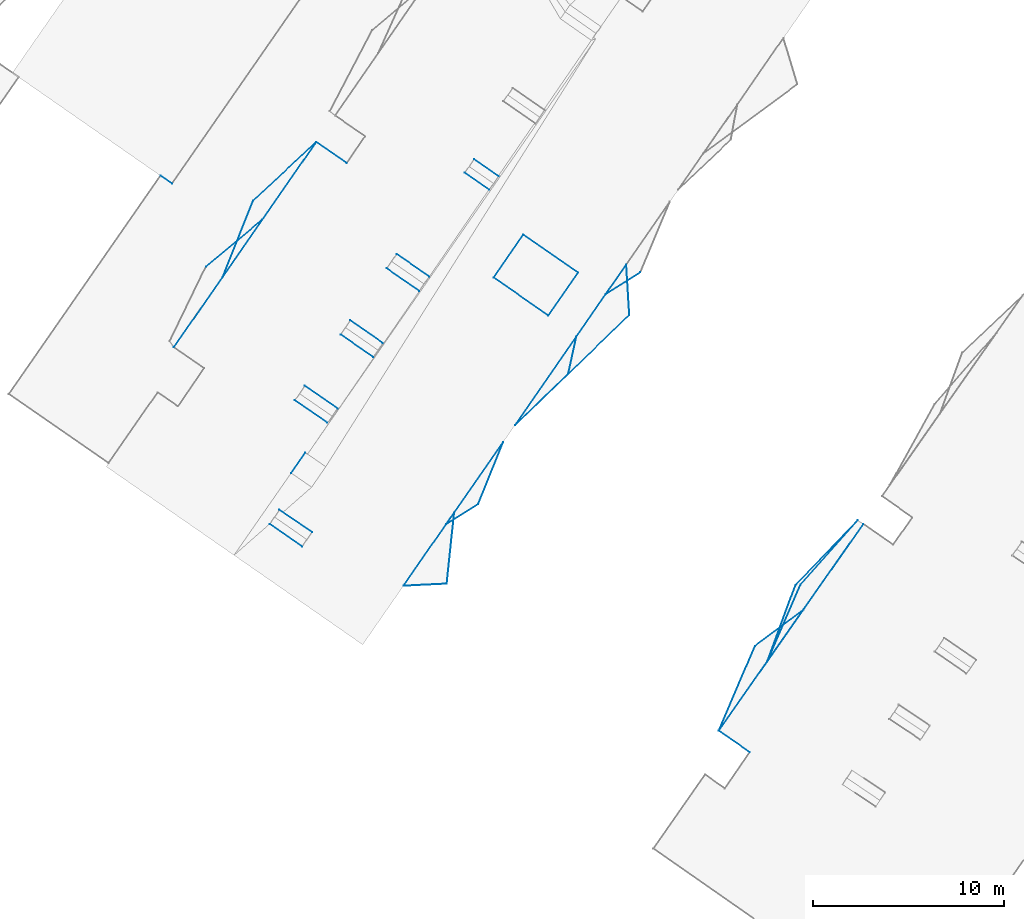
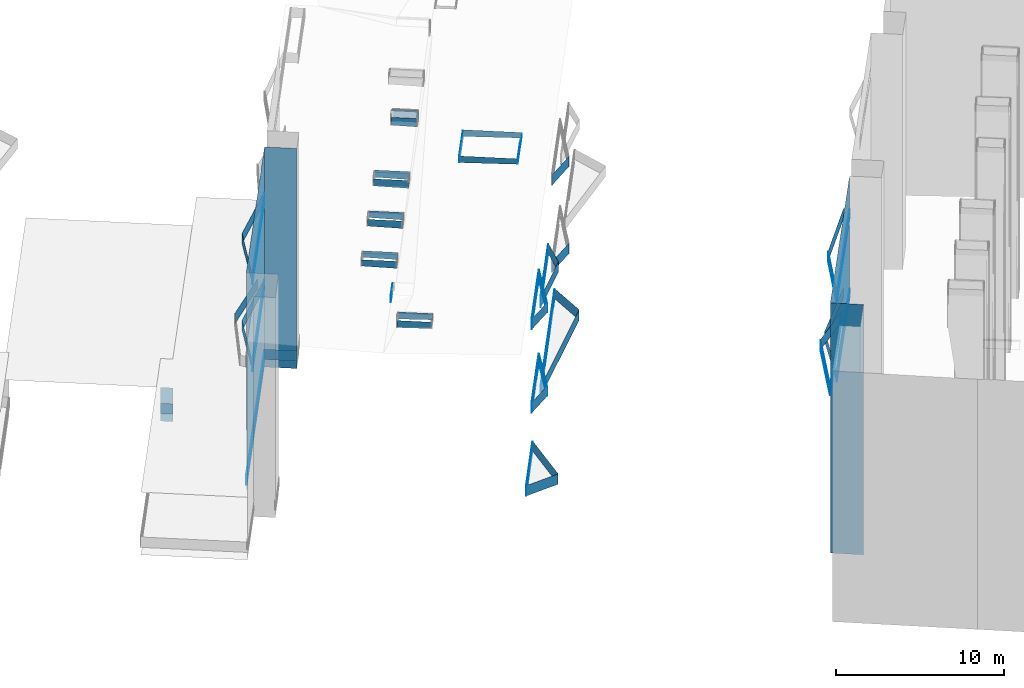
# Not in any storey, part 3 of 136: 97 walls.
"""IFC2X3 building model written with IfcOpenShell, lengths in metres."""

from ifc_helpers import new_model, entity, si_unit, converted_unit, frame, origin, place, context, subcontext, project, spatial, face_set, surface_model, element, save


model = new_model("IFC2X3")

# Units and contexts
model_context = context("Model", 3, precision=1e-05, world=origin())
body_context = subcontext(model_context, "Body", "Model", "MODEL_VIEW")
ifc_project = project(units=[converted_unit("PLANEANGLEUNIT", "DEGREE", entity("IfcRatioMeasure", 0.0174532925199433), si_unit("PLANEANGLEUNIT", "RADIAN"), dimensions=[0, 0, 0, 0, 0, 0, 0]), si_unit("AREAUNIT", "SQUARE_METRE"), si_unit("LENGTHUNIT", "METRE")], contexts=[model_context])

# Site, building
site_placement = place(None, origin())
site = spatial("IfcSite", under=ifc_project, at=site_placement, Name="_site", CompositionType="ELEMENT")
building_1_placement = place(site_placement, origin())
building_1 = spatial("IfcBuilding", under=site, at=building_1_placement, Name="_building", CompositionType="ELEMENT")

# Walls
wall_1_placement = place(building_1_placement, origin())
element("IfcWall", 1, at=wall_1_placement, inside=building_1, Name="Wall", context=body_context, shape_type="SurfaceModel", body=[
    surface_model("IfcFaceBasedSurfaceModel", [(4.31, 32.83, 47.18), (-0.12, 26.5, 47.18), (-0.12, 26.5, 47.93), (4.31, 32.83, 47.93)], [face_set([[[0, 1, 2, 3]]])]),
])
wall_2_placement = place(building_1_placement, origin())
element("IfcWall", 2, at=wall_2_placement, inside=building_1, Name="Wall", context=body_context, shape_type="SurfaceModel", body=[
    surface_model("IfcFaceBasedSurfaceModel", [(-0.12, 26.5, 47.18), (1.77, 30.93, 47.18), (1.77, 30.93, 47.93), (-0.12, 26.5, 47.93)], [face_set([[[0, 1, 2, 3]]])]),
])
wall_3_placement = place(building_1_placement, origin())
element("IfcWall", 3, at=wall_3_placement, inside=building_1, Name="Wall", context=body_context, shape_type="SurfaceModel", body=[
    surface_model("IfcFaceBasedSurfaceModel", [(2.41, 30.12, 45.09), (3.89, 34.12, 45.09), (3.89, 34.12, 45.84), (2.41, 30.12, 45.84)], [face_set([[[0, 1, 2, 3]]])]),
])
wall_4_placement = place(building_1_placement, origin())
element("IfcWall", 4, at=wall_4_placement, inside=building_1, Name="Wall", context=body_context, shape_type="SurfaceModel", body=[
    surface_model("IfcFaceBasedSurfaceModel", [(7.44, 37.311, 45.09), (2.41, 30.12, 45.09), (2.41, 30.12, 45.84), (7.44, 37.311, 45.84)], [face_set([[[0, 1, 2, 3]]])]),
])
wall_5_placement = place(building_1_placement, origin())
element("IfcWall", 5, at=wall_5_placement, inside=building_1, Name="Wall", context=body_context, shape_type="SurfaceModel", body=[
    surface_model("IfcFaceBasedSurfaceModel", [(3.89, 34.12, 45.09), (7.15, 37.51, 45.09), (7.15, 37.51, 45.84), (3.89, 34.12, 45.84)], [face_set([[[0, 1, 2, 3]]])]),
])
wall_6_placement = place(building_1_placement, origin())
element("IfcWall", 6, at=wall_6_placement, inside=building_1, Name="Wall", context=body_context, shape_type="SurfaceModel", body=[
    surface_model("IfcFaceBasedSurfaceModel", [(2.41, 30.12, 45.09), (3.89, 34.12, 45.09), (3.89, 34.12, 45.84), (2.41, 30.12, 45.84)], [face_set([[[0, 1, 2, 3]]])]),
])
wall_7_placement = place(building_1_placement, origin())
element("IfcWall", 7, at=wall_7_placement, inside=building_1, Name="Wall", context=body_context, shape_type="SurfaceModel", body=[
    surface_model("IfcFaceBasedSurfaceModel", [(7.44, 37.311, 45.09), (2.41, 30.12, 45.09), (2.41, 30.12, 45.84), (7.44, 37.311, 45.84)], [face_set([[[0, 1, 2, 3]]])]),
])
wall_8_placement = place(building_1_placement, origin())
element("IfcWall", 8, at=wall_8_placement, inside=building_1, Name="Wall", context=body_context, shape_type="SurfaceModel", body=[
    surface_model("IfcFaceBasedSurfaceModel", [(3.89, 34.12, 45.09), (7.15, 37.51, 45.09), (7.15, 37.51, 45.84), (3.89, 34.12, 45.84)], [face_set([[[0, 1, 2, 3]]])]),
])
wall_9_placement = place(building_1_placement, origin())
element("IfcWall", 9, at=wall_9_placement, inside=building_1, Name="Wall", context=body_context, shape_type="SurfaceModel", body=[
    surface_model("IfcFaceBasedSurfaceModel", [(-0.12, 26.5, 53.93), (7.44, 37.311, 53.93), (7.44, 37.311, 35.839), (-0.12, 26.5, 35.784)], [face_set([[[0, 1, 2, 3]]])]),
])
wall_10_placement = place(building_1_placement, origin())
element("IfcWall", 10, at=wall_10_placement, inside=building_1, Name="Wall", context=body_context, shape_type="SurfaceModel", body=[
    surface_model("IfcFaceBasedSurfaceModel", [(1.5, 25.37, 53.93), (-0.12, 26.5, 53.93), (-0.12, 26.5, 35.784), (1.5, 25.37, 35.775)], [face_set([[[0, 1, 2, 3]]])]),
])
wall_11_placement = place(building_1_placement, origin())
element("IfcWall", 11, at=wall_11_placement, inside=building_1, Name="Wall", context=body_context, shape_type="SurfaceModel", body=[
    surface_model("IfcFaceBasedSurfaceModel", [(4.31, 32.83, 47.18), (-0.12, 26.5, 47.18), (-0.12, 26.5, 47.93), (4.31, 32.83, 47.93)], [face_set([[[0, 1, 2, 3]]])]),
])
wall_12_placement = place(building_1_placement, origin())
element("IfcWall", 12, at=wall_12_placement, inside=building_1, Name="Wall", context=body_context, shape_type="SurfaceModel", body=[
    surface_model("IfcFaceBasedSurfaceModel", [(1.77, 30.93, 47.18), (4.31, 32.83, 47.18), (4.31, 32.83, 47.93), (1.77, 30.93, 47.93)], [face_set([[[0, 1, 2, 3]]])]),
])
wall_13_placement = place(building_1_placement, origin())
element("IfcWall", 13, at=wall_13_placement, inside=building_1, Name="Wall", context=body_context, shape_type="SurfaceModel", body=[
    surface_model("IfcFaceBasedSurfaceModel", [(-0.12, 26.5, 47.18), (1.77, 30.93, 47.18), (1.77, 30.93, 47.93), (-0.12, 26.5, 47.93)], [face_set([[[0, 1, 2, 3]]])]),
])
wall_14_placement = place(building_1_placement, origin())
element("IfcWall", 14, at=wall_14_placement, inside=building_1, Name="Wall", context=body_context, shape_type="SurfaceModel", body=[
    surface_model("IfcFaceBasedSurfaceModel", [(1.77, 30.93, 47.18), (4.31, 32.83, 47.18), (4.31, 32.83, 47.93), (1.77, 30.93, 47.93)], [face_set([[[0, 1, 2, 3]]])]),
])
wall_15_placement = place(building_1_placement, origin())
element("IfcWall", 15, at=wall_15_placement, inside=building_1, Name="Wall", context=body_context, shape_type="SurfaceModel", body=[
    surface_model("IfcFaceBasedSurfaceModel", [(2.41, 30.12, 50.84), (4.15, 34.14, 50.84), (4.15, 34.14, 51.59), (2.41, 30.12, 51.59)], [face_set([[[0, 1, 2, 3]]])]),
])
wall_16_placement = place(building_1_placement, origin())
element("IfcWall", 16, at=wall_16_placement, inside=building_1, Name="Wall", context=body_context, shape_type="SurfaceModel", body=[
    surface_model("IfcFaceBasedSurfaceModel", [(7.44, 37.311, 50.84), (2.41, 30.12, 50.84), (2.41, 30.12, 51.59), (7.44, 37.311, 51.59)], [face_set([[[0, 1, 2, 3]]])]),
])
wall_17_placement = place(building_1_placement, origin())
element("IfcWall", 17, at=wall_17_placement, inside=building_1, Name="Wall", context=body_context, shape_type="SurfaceModel", body=[
    surface_model("IfcFaceBasedSurfaceModel", [(4.15, 34.14, 50.84), (7.15, 37.51, 50.84), (7.15, 37.51, 51.59), (4.15, 34.14, 51.59)], [face_set([[[0, 1, 2, 3]]])]),
])
wall_18_placement = place(building_1_placement, origin())
element("IfcWall", 18, at=wall_18_placement, inside=building_1, Name="Wall", context=body_context, shape_type="SurfaceModel", body=[
    surface_model("IfcFaceBasedSurfaceModel", [(2.41, 30.12, 50.84), (4.15, 34.14, 50.84), (4.15, 34.14, 51.59), (2.41, 30.12, 51.59)], [face_set([[[0, 1, 2, 3]]])]),
])
wall_19_placement = place(building_1_placement, origin())
element("IfcWall", 19, at=wall_19_placement, inside=building_1, Name="Wall", context=body_context, shape_type="SurfaceModel", body=[
    surface_model("IfcFaceBasedSurfaceModel", [(7.44, 37.311, 50.84), (2.41, 30.12, 50.84), (2.41, 30.12, 51.59), (7.44, 37.311, 51.59)], [face_set([[[0, 1, 2, 3]]])]),
])
wall_20_placement = place(building_1_placement, origin())
element("IfcWall", 20, at=wall_20_placement, inside=building_1, Name="Wall", context=body_context, shape_type="SurfaceModel", body=[
    surface_model("IfcFaceBasedSurfaceModel", [(4.15, 34.14, 50.84), (7.15, 37.51, 50.84), (7.15, 37.51, 51.59), (4.15, 34.14, 51.59)], [face_set([[[0, 1, 2, 3]]])]),
])

# Building
building_2_placement = place(site_placement, origin())
building_2 = spatial("IfcBuilding", under=site, at=building_2_placement, Name="_building", CompositionType="ELEMENT")

# Walls
wall_21_placement = place(building_2_placement, origin())
element("IfcWall", 21, at=wall_21_placement, inside=building_2, Name="Wall", context=body_context, shape_type="SurfaceModel", body=[
    surface_model("IfcFaceBasedSurfaceModel", [(-4.22, 50.48, 44.39), (-6.03, 49.33, 44.39), (-6.03, 49.33, 45.14), (-4.22, 50.48, 45.14)], [face_set([[[0, 1, 2, 3]]])]),
])
wall_22_placement = place(building_2_placement, origin())
element("IfcWall", 22, at=wall_22_placement, inside=building_2, Name="Wall", context=body_context, shape_type="SurfaceModel", body=[
    surface_model("IfcFaceBasedSurfaceModel", [(-14.38, 37.3, 50.44), (-13.96, 37.91, 50.44), (-13.96, 37.91, 51.19), (-14.38, 37.3, 51.19)], [face_set([[[0, 1, 2, 3]]])]),
])
wall_23_placement = place(building_2_placement, origin())
element("IfcWall", 23, at=wall_23_placement, inside=building_2, Name="Wall", context=body_context, shape_type="SurfaceModel", body=[
    surface_model("IfcFaceBasedSurfaceModel", [(-12.71, 38.351, 50.44), (-14.38, 37.3, 50.44), (-14.38, 37.3, 51.19), (-12.71, 38.351, 51.19)], [face_set([[[0, 1, 2, 3]]])]),
])
wall_24_placement = place(building_2_placement, origin())
element("IfcWall", 24, at=wall_24_placement, inside=building_2, Name="Wall", context=body_context, shape_type="SurfaceModel", body=[
    surface_model("IfcFaceBasedSurfaceModel", [(-11.4, 41.59, 50.44), (-12.71, 38.351, 50.44), (-12.71, 38.351, 51.19), (-11.4, 41.59, 51.19)], [face_set([[[0, 1, 2, 3]]])]),
])
wall_25_placement = place(building_2_placement, origin())
element("IfcWall", 25, at=wall_25_placement, inside=building_2, Name="Wall", context=body_context, shape_type="SurfaceModel", body=[
    surface_model("IfcFaceBasedSurfaceModel", [(-14.38, 37.3, 50.44), (-13.96, 37.91, 50.44), (-13.96, 37.91, 51.19), (-14.38, 37.3, 51.19)], [face_set([[[0, 1, 2, 3]]])]),
])
wall_26_placement = place(building_2_placement, origin())
element("IfcWall", 26, at=wall_26_placement, inside=building_2, Name="Wall", context=body_context, shape_type="SurfaceModel", body=[
    surface_model("IfcFaceBasedSurfaceModel", [(-12.71, 38.351, 50.44), (-14.38, 37.3, 50.44), (-14.38, 37.3, 51.19), (-12.71, 38.351, 51.19)], [face_set([[[0, 1, 2, 3]]])]),
])
wall_27_placement = place(building_2_placement, origin())
element("IfcWall", 27, at=wall_27_placement, inside=building_2, Name="Wall", context=body_context, shape_type="SurfaceModel", body=[
    surface_model("IfcFaceBasedSurfaceModel", [(-11.4, 41.59, 50.44), (-12.71, 38.351, 50.44), (-12.71, 38.351, 51.19), (-11.4, 41.59, 51.19)], [face_set([[[0, 1, 2, 3]]])]),
])
wall_28_placement = place(building_2_placement, origin())
element("IfcWall", 28, at=wall_28_placement, inside=building_2, Name="Wall", context=body_context, shape_type="SurfaceModel", body=[
    surface_model("IfcFaceBasedSurfaceModel", [(-13.96, 37.91, 50.44), (-11.4, 41.59, 50.44), (-11.4, 41.59, 51.19), (-13.96, 37.91, 51.19)], [face_set([[[0, 1, 2, 3]]])]),
])
wall_29_placement = place(building_2_placement, origin())
element("IfcWall", 29, at=wall_29_placement, inside=building_2, Name="Wall", context=body_context, shape_type="SurfaceModel", body=[
    surface_model("IfcFaceBasedSurfaceModel", [(-16.61, 34.08, 41.1), (-13.96, 37.91, 41.1), (-13.96, 37.91, 41.85), (-16.61, 34.08, 41.85)], [face_set([[[0, 1, 2, 3]]])]),
])
wall_30_placement = place(building_2_placement, origin())
element("IfcWall", 30, at=wall_30_placement, inside=building_2, Name="Wall", context=body_context, shape_type="SurfaceModel", body=[
    surface_model("IfcFaceBasedSurfaceModel", [(-14.35, 34.19, 41.1), (-16.61, 34.08, 41.1), (-16.61, 34.08, 41.85), (-14.35, 34.19, 41.85)], [face_set([[[0, 1, 2, 3]]])]),
])
wall_31_placement = place(building_2_placement, origin())
element("IfcWall", 31, at=wall_31_placement, inside=building_2, Name="Wall", context=body_context, shape_type="SurfaceModel", body=[
    surface_model("IfcFaceBasedSurfaceModel", [(-13.96, 37.91, 41.1), (-14.35, 34.19, 41.1), (-14.35, 34.19, 41.85), (-13.96, 37.91, 41.85)], [face_set([[[0, 1, 2, 3]]])]),
])
wall_32_placement = place(building_2_placement, origin())
element("IfcWall", 32, at=wall_32_placement, inside=building_2, Name="Wall", context=body_context, shape_type="SurfaceModel", body=[
    surface_model("IfcFaceBasedSurfaceModel", [(-16.61, 34.08, 41.1), (-13.96, 37.91, 41.1), (-13.96, 37.91, 41.85), (-16.61, 34.08, 41.85)], [face_set([[[0, 1, 2, 3]]])]),
])
wall_33_placement = place(building_2_placement, origin())
element("IfcWall", 33, at=wall_33_placement, inside=building_2, Name="Wall", context=body_context, shape_type="SurfaceModel", body=[
    surface_model("IfcFaceBasedSurfaceModel", [(-14.35, 34.19, 41.1), (-16.61, 34.08, 41.1), (-16.61, 34.08, 41.85), (-14.35, 34.19, 41.85)], [face_set([[[0, 1, 2, 3]]])]),
])
wall_34_placement = place(building_2_placement, origin())
element("IfcWall", 34, at=wall_34_placement, inside=building_2, Name="Wall", context=body_context, shape_type="SurfaceModel", body=[
    surface_model("IfcFaceBasedSurfaceModel", [(-13.96, 37.91, 41.1), (-14.35, 34.19, 41.1), (-14.35, 34.19, 41.85), (-13.96, 37.91, 41.85)], [face_set([[[0, 1, 2, 3]]])]),
])
wall_35_placement = place(building_2_placement, origin())
element("IfcWall", 35, at=wall_35_placement, inside=building_2, Name="Wall", context=body_context, shape_type="SurfaceModel", body=[
    surface_model("IfcFaceBasedSurfaceModel", [(-8.0, 45.16, 47.62), (-10.77, 42.49, 47.62), (-10.77, 42.49, 48.37), (-8.0, 45.16, 48.37)], [face_set([[[0, 1, 2, 3]]])]),
])
wall_36_placement = place(building_2_placement, origin())
element("IfcWall", 36, at=wall_36_placement, inside=building_2, Name="Wall", context=body_context, shape_type="SurfaceModel", body=[
    surface_model("IfcFaceBasedSurfaceModel", [(-7.57, 47.11, 47.62), (-8.0, 45.16, 47.62), (-8.0, 45.16, 48.37), (-7.57, 47.11, 48.37)], [face_set([[[0, 1, 2, 3]]])]),
])
wall_37_placement = place(building_2_placement, origin())
element("IfcWall", 37, at=wall_37_placement, inside=building_2, Name="Wall", context=body_context, shape_type="SurfaceModel", body=[
    surface_model("IfcFaceBasedSurfaceModel", [(-10.77, 42.49, 47.62), (-7.57, 47.11, 47.62), (-7.57, 47.11, 48.37), (-10.77, 42.49, 48.37)], [face_set([[[0, 1, 2, 3]]])]),
])
wall_38_placement = place(building_2_placement, origin())
element("IfcWall", 38, at=wall_38_placement, inside=building_2, Name="Wall", context=body_context, shape_type="SurfaceModel", body=[
    surface_model("IfcFaceBasedSurfaceModel", [(-8.0, 45.16, 47.62), (-10.77, 42.49, 47.62), (-10.77, 42.49, 48.37), (-8.0, 45.16, 48.37)], [face_set([[[0, 1, 2, 3]]])]),
])
wall_39_placement = place(building_2_placement, origin())
element("IfcWall", 39, at=wall_39_placement, inside=building_2, Name="Wall", context=body_context, shape_type="SurfaceModel", body=[
    surface_model("IfcFaceBasedSurfaceModel", [(-7.57, 47.11, 47.62), (-8.0, 45.16, 47.62), (-8.0, 45.16, 48.37), (-7.57, 47.11, 48.37)], [face_set([[[0, 1, 2, 3]]])]),
])
wall_40_placement = place(building_2_placement, origin())
element("IfcWall", 40, at=wall_40_placement, inside=building_2, Name="Wall", context=body_context, shape_type="SurfaceModel", body=[
    surface_model("IfcFaceBasedSurfaceModel", [(-21.17, 57.29, 43.65), (-26.07, 50.23, 43.65), (-26.07, 50.23, 44.4), (-21.17, 57.29, 44.4)], [face_set([[[0, 1, 2, 3]]])]),
])
wall_41_placement = place(building_2_placement, origin())
element("IfcWall", 41, at=wall_41_placement, inside=building_2, Name="Wall", context=body_context, shape_type="SurfaceModel", body=[
    surface_model("IfcFaceBasedSurfaceModel", [(-4.22, 50.48, 50.7), (-6.03, 49.33, 50.7), (-6.03, 49.33, 51.45), (-4.22, 50.48, 51.45)], [face_set([[[0, 1, 2, 3]]])]),
])
wall_42_placement = place(building_2_placement, origin())
element("IfcWall", 42, at=wall_42_placement, inside=building_2, Name="Wall", context=body_context, shape_type="SurfaceModel", body=[
    surface_model("IfcFaceBasedSurfaceModel", [(-13.96, 37.91, 50.44), (-11.4, 41.59, 50.44), (-11.4, 41.59, 51.19), (-13.96, 37.91, 51.19)], [face_set([[[0, 1, 2, 3]]])]),
])
wall_43_placement = place(building_2_placement, origin())
element("IfcWall", 43, at=wall_43_placement, inside=building_2, Name="Wall", context=body_context, shape_type="SurfaceModel", body=[
    surface_model("IfcFaceBasedSurfaceModel", [(-24.48, 54.22, 43.65), (-21.17, 57.29, 43.65), (-21.17, 57.29, 44.4), (-24.48, 54.22, 44.4)], [face_set([[[0, 1, 2, 3]]])]),
])
wall_44_placement = place(building_2_placement, origin())
element("IfcWall", 44, at=wall_44_placement, inside=building_2, Name="Wall", context=body_context, shape_type="SurfaceModel", body=[
    surface_model("IfcFaceBasedSurfaceModel", [(-12.92, 56.38, 54.35), (-11.64, 55.49, 54.35), (-11.64, 55.49, 53.737), (-12.92, 56.38, 53.779)], [face_set([[[0, 1, 2, 3]]])]),
])
wall_45_placement = place(building_2_placement, origin())
element("IfcWall", 45, at=wall_45_placement, inside=building_2, Name="Wall", context=body_context, shape_type="SurfaceModel", body=[
    surface_model("IfcFaceBasedSurfaceModel", [(-23.1, 38.05, 54.32), (-21.4, 36.88, 54.32), (-21.4, 36.88, 53.856), (-23.1, 38.05, 53.808)], [face_set([[[0, 1, 2, 3]]])]),
])
wall_46_placement = place(building_2_placement, origin())
element("IfcWall", 46, at=wall_46_placement, inside=building_2, Name="Wall", context=body_context, shape_type="SurfaceModel", body=[
    surface_model("IfcFaceBasedSurfaceModel", [(-19.39, 47.96, 54.35), (-17.69, 46.771, 54.35), (-17.69, 46.771, 53.803), (-19.39, 47.96, 53.858)], [face_set([[[0, 1, 2, 3]]])]),
])
wall_47_placement = place(building_2_placement, origin())
element("IfcWall", 47, at=wall_47_placement, inside=building_2, Name="Wall", context=body_context, shape_type="SurfaceModel", body=[
    surface_model("IfcFaceBasedSurfaceModel", [(-29.32, 55.521, 38.52), (-28.72, 55.11, 38.52), (-28.72, 55.11, 39.27), (-29.32, 55.521, 39.27)], [face_set([[[0, 1, 2, 3]]])]),
])
wall_48_placement = place(building_2_placement, origin())
element("IfcWall", 48, at=wall_48_placement, inside=building_2, Name="Wall", context=body_context, shape_type="SurfaceModel", body=[
    surface_model("IfcFaceBasedSurfaceModel", [(-16.97, 51.43, 54.35), (-15.27, 50.25, 54.35), (-15.27, 50.25, 53.776), (-16.97, 51.43, 53.832)], [face_set([[[0, 1, 2, 3]]])]),
])
wall_49_placement = place(building_2_placement, origin())
element("IfcWall", 49, at=wall_49_placement, inside=building_2, Name="Wall", context=body_context, shape_type="SurfaceModel", body=[
    surface_model("IfcFaceBasedSurfaceModel", [(-21.77, 44.54, 54.35), (-20.06, 43.351, 54.35), (-20.06, 43.351, 53.828), (-21.77, 44.54, 53.884)], [face_set([[[0, 1, 2, 3]]])]),
])
wall_50_placement = place(building_2_placement, origin())
element("IfcWall", 50, at=wall_50_placement, inside=building_2, Name="Wall", context=body_context, shape_type="SurfaceModel", body=[
    surface_model("IfcFaceBasedSurfaceModel", [(-26.07, 50.23, 43.65), (-24.48, 54.22, 43.65), (-24.48, 54.22, 44.4), (-26.07, 50.23, 44.4)], [face_set([[[0, 1, 2, 3]]])]),
])
wall_51_placement = place(building_2_placement, origin())
element("IfcWall", 51, at=wall_51_placement, inside=building_2, Name="Wall", context=body_context, shape_type="SurfaceModel", body=[
    surface_model("IfcFaceBasedSurfaceModel", [(-21.17, 57.29, 43.65), (-26.07, 50.23, 43.65), (-26.07, 50.23, 44.4), (-21.17, 57.29, 44.4)], [face_set([[[0, 1, 2, 3]]])]),
])
wall_52_placement = place(building_2_placement, origin())
element("IfcWall", 52, at=wall_52_placement, inside=building_2, Name="Wall", context=body_context, shape_type="SurfaceModel", body=[
    surface_model("IfcFaceBasedSurfaceModel", [(-24.48, 54.22, 43.65), (-21.17, 57.29, 43.65), (-21.17, 57.29, 44.4), (-24.48, 54.22, 44.4)], [face_set([[[0, 1, 2, 3]]])]),
])
wall_53_placement = place(building_2_placement, origin())
element("IfcWall", 53, at=wall_53_placement, inside=building_2, Name="Wall", context=body_context, shape_type="SurfaceModel", body=[
    surface_model("IfcFaceBasedSurfaceModel", [(-26.07, 50.23, 43.65), (-24.48, 54.22, 43.65), (-24.48, 54.22, 44.4), (-26.07, 50.23, 44.4)], [face_set([[[0, 1, 2, 3]]])]),
])
wall_54_placement = place(building_2_placement, origin())
element("IfcWall", 54, at=wall_54_placement, inside=building_2, Name="Wall", context=body_context, shape_type="SurfaceModel", body=[
    surface_model("IfcFaceBasedSurfaceModel", [(-4.22, 50.48, 50.7), (-6.03, 49.33, 50.7), (-6.03, 49.33, 51.45), (-4.22, 50.48, 51.45)], [face_set([[[0, 1, 2, 3]]])]),
])
wall_55_placement = place(building_2_placement, origin())
element("IfcWall", 55, at=wall_55_placement, inside=building_2, Name="Wall", context=body_context, shape_type="SurfaceModel", body=[
    surface_model("IfcFaceBasedSurfaceModel", [(-12.13, 54.79, 54.35), (-13.41, 55.68, 54.35), (-13.41, 55.68, 53.784), (-12.13, 54.79, 53.742)], [face_set([[[0, 1, 2, 3]]])]),
])
wall_56_placement = place(building_2_placement, origin())
element("IfcWall", 56, at=wall_56_placement, inside=building_2, Name="Wall", context=body_context, shape_type="SurfaceModel", body=[
    surface_model("IfcFaceBasedSurfaceModel", [(-9.04, 48.21, 54.34), (-11.9, 50.2, 54.34), (-11.9, 50.2, 53.862), (-9.04, 48.21, 53.944)], [face_set([[[0, 1, 2, 3]]])]),
])
wall_57_placement = place(building_2_placement, origin())
element("IfcWall", 57, at=wall_57_placement, inside=building_2, Name="Wall", context=body_context, shape_type="SurfaceModel", body=[
    surface_model("IfcFaceBasedSurfaceModel", [(-13.96, 37.91, 44.38), (-11.4, 41.59, 44.38), (-11.4, 41.59, 45.13), (-13.96, 37.91, 45.13)], [face_set([[[0, 1, 2, 3]]])]),
])
wall_58_placement = place(building_2_placement, origin())
element("IfcWall", 58, at=wall_58_placement, inside=building_2, Name="Wall", context=body_context, shape_type="SurfaceModel", body=[
    surface_model("IfcFaceBasedSurfaceModel", [(-18.2, 46.04, 54.35), (-19.9, 47.22, 54.35), (-19.9, 47.22, 53.864), (-18.2, 46.04, 53.808)], [face_set([[[0, 1, 2, 3]]])]),
])
wall_59_placement = place(building_2_placement, origin())
element("IfcWall", 59, at=wall_59_placement, inside=building_2, Name="Wall", context=body_context, shape_type="SurfaceModel", body=[
    surface_model("IfcFaceBasedSurfaceModel", [(-7.48, 50.45, 54.34), (-9.04, 48.21, 54.34), (-9.04, 48.21, 53.944), (-7.48, 50.45, 53.945)], [face_set([[[0, 1, 2, 3]]])]),
])
wall_60_placement = place(building_2_placement, origin())
element("IfcWall", 60, at=wall_60_placement, inside=building_2, Name="Wall", context=body_context, shape_type="SurfaceModel", body=[
    surface_model("IfcFaceBasedSurfaceModel", [(-10.35, 52.44, 54.34), (-7.48, 50.45, 54.34), (-7.48, 50.45, 53.945), (-10.35, 52.44, 53.862)], [face_set([[[0, 1, 2, 3]]])]),
])
wall_61_placement = place(building_2_placement, origin())
element("IfcWall", 61, at=wall_61_placement, inside=building_2, Name="Wall", context=body_context, shape_type="SurfaceModel", body=[
    surface_model("IfcFaceBasedSurfaceModel", [(-22.491, 39.981, 54.17), (-21.75, 41.05, 54.17), (-21.75, 41.05, 53.59), (-22.491, 39.981, 53.59)], [face_set([[[0, 1, 2, 3]]])]),
])
wall_62_placement = place(building_2_placement, origin())
element("IfcWall", 62, at=wall_62_placement, inside=building_2, Name="Wall", context=body_context, shape_type="SurfaceModel", body=[
    surface_model("IfcFaceBasedSurfaceModel", [(-14.38, 37.3, 44.38), (-13.96, 37.91, 44.38), (-13.96, 37.91, 45.13), (-14.38, 37.3, 45.13)], [face_set([[[0, 1, 2, 3]]])]),
])
wall_63_placement = place(building_2_placement, origin())
element("IfcWall", 63, at=wall_63_placement, inside=building_2, Name="Wall", context=body_context, shape_type="SurfaceModel", body=[
    surface_model("IfcFaceBasedSurfaceModel", [(-12.71, 38.351, 44.38), (-14.38, 37.3, 44.38), (-14.38, 37.3, 45.13), (-12.71, 38.351, 45.13)], [face_set([[[0, 1, 2, 3]]])]),
])
wall_64_placement = place(building_2_placement, origin())
element("IfcWall", 64, at=wall_64_placement, inside=building_2, Name="Wall", context=body_context, shape_type="SurfaceModel", body=[
    surface_model("IfcFaceBasedSurfaceModel", [(-10.77, 42.49, 47.62), (-7.57, 47.11, 47.62), (-7.57, 47.11, 48.37), (-10.77, 42.49, 48.37)], [face_set([[[0, 1, 2, 3]]])]),
])
wall_65_placement = place(building_2_placement, origin())
element("IfcWall", 65, at=wall_65_placement, inside=building_2, Name="Wall", context=body_context, shape_type="SurfaceModel", body=[
    surface_model("IfcFaceBasedSurfaceModel", [(-11.4, 41.59, 44.38), (-12.71, 38.351, 44.38), (-12.71, 38.351, 45.13), (-11.4, 41.59, 45.13)], [face_set([[[0, 1, 2, 3]]])]),
])
wall_66_placement = place(building_2_placement, origin())
element("IfcWall", 66, at=wall_66_placement, inside=building_2, Name="Wall", context=body_context, shape_type="SurfaceModel", body=[
    surface_model("IfcFaceBasedSurfaceModel", [(-14.38, 37.3, 44.38), (-13.96, 37.91, 44.38), (-13.96, 37.91, 45.13), (-14.38, 37.3, 45.13)], [face_set([[[0, 1, 2, 3]]])]),
])
wall_67_placement = place(building_2_placement, origin())
element("IfcWall", 67, at=wall_67_placement, inside=building_2, Name="Wall", context=body_context, shape_type="SurfaceModel", body=[
    surface_model("IfcFaceBasedSurfaceModel", [(-12.71, 38.351, 44.38), (-14.38, 37.3, 44.38), (-14.38, 37.3, 45.13), (-12.71, 38.351, 45.13)], [face_set([[[0, 1, 2, 3]]])]),
])
wall_68_placement = place(building_2_placement, origin())
element("IfcWall", 68, at=wall_68_placement, inside=building_2, Name="Wall", context=body_context, shape_type="SurfaceModel", body=[
    surface_model("IfcFaceBasedSurfaceModel", [(-11.4, 41.59, 44.38), (-12.71, 38.351, 44.38), (-12.71, 38.351, 45.13), (-11.4, 41.59, 45.13)], [face_set([[[0, 1, 2, 3]]])]),
])
wall_69_placement = place(building_2_placement, origin())
element("IfcWall", 69, at=wall_69_placement, inside=building_2, Name="Wall", context=body_context, shape_type="SurfaceModel", body=[
    surface_model("IfcFaceBasedSurfaceModel", [(-13.96, 37.91, 44.38), (-11.4, 41.59, 44.38), (-11.4, 41.59, 45.13), (-13.96, 37.91, 45.13)], [face_set([[[0, 1, 2, 3]]])]),
])
wall_70_placement = place(building_2_placement, origin())
element("IfcWall", 70, at=wall_70_placement, inside=building_2, Name="Wall", context=body_context, shape_type="SurfaceModel", body=[
    surface_model("IfcFaceBasedSurfaceModel", [(-28.72, 55.11, 40.43), (-29.32, 55.521, 40.43), (-29.32, 55.521, 37.98), (-28.72, 55.11, 37.98)], [face_set([[[0, 1, 2, 3]]])]),
])
wall_71_placement = place(building_2_placement, origin())
element("IfcWall", 71, at=wall_71_placement, inside=building_2, Name="Wall", context=body_context, shape_type="SurfaceModel", body=[
    surface_model("IfcFaceBasedSurfaceModel", [(-15.8, 49.5, 54.35), (-17.5, 50.68, 54.35), (-17.5, 50.68, 53.838), (-15.8, 49.5, 53.782)], [face_set([[[0, 1, 2, 3]]])]),
])
wall_72_placement = place(building_2_placement, origin())
element("IfcWall", 72, at=wall_72_placement, inside=building_2, Name="Wall", context=body_context, shape_type="SurfaceModel", body=[
    surface_model("IfcFaceBasedSurfaceModel", [(-11.9, 50.2, 54.34), (-10.35, 52.44, 54.34), (-10.35, 52.44, 53.862), (-11.9, 50.2, 53.862)], [face_set([[[0, 1, 2, 3]]])]),
])
wall_73_placement = place(building_2_placement, origin())
element("IfcWall", 73, at=wall_73_placement, inside=building_2, Name="Wall", context=body_context, shape_type="SurfaceModel", body=[
    surface_model("IfcFaceBasedSurfaceModel", [(-10.77, 42.49, 41.14), (-7.57, 47.11, 41.14), (-7.57, 47.11, 41.89), (-10.77, 42.49, 41.89)], [face_set([[[0, 1, 2, 3]]])]),
])
wall_74_placement = place(building_2_placement, origin())
element("IfcWall", 74, at=wall_74_placement, inside=building_2, Name="Wall", context=body_context, shape_type="SurfaceModel", body=[
    surface_model("IfcFaceBasedSurfaceModel", [(-4.8, 48.24, 41.14), (-10.77, 42.49, 41.14), (-10.77, 42.49, 41.89), (-4.8, 48.24, 41.89)], [face_set([[[0, 1, 2, 3]]])]),
])
wall_75_placement = place(building_2_placement, origin())
element("IfcWall", 75, at=wall_75_placement, inside=building_2, Name="Wall", context=body_context, shape_type="SurfaceModel", body=[
    surface_model("IfcFaceBasedSurfaceModel", [(-4.96, 50.88, 41.14), (-4.8, 48.24, 41.14), (-4.8, 48.24, 41.89), (-4.96, 50.88, 41.89)], [face_set([[[0, 1, 2, 3]]])]),
])
wall_76_placement = place(building_2_placement, origin())
element("IfcWall", 76, at=wall_76_placement, inside=building_2, Name="Wall", context=body_context, shape_type="SurfaceModel", body=[
    surface_model("IfcFaceBasedSurfaceModel", [(-7.57, 47.11, 41.14), (-4.96, 50.88, 41.14), (-4.96, 50.88, 41.89), (-7.57, 47.11, 41.89)], [face_set([[[0, 1, 2, 3]]])]),
])
wall_77_placement = place(building_2_placement, origin())
element("IfcWall", 77, at=wall_77_placement, inside=building_2, Name="Wall", context=body_context, shape_type="SurfaceModel", body=[
    surface_model("IfcFaceBasedSurfaceModel", [(-10.77, 42.49, 41.14), (-7.57, 47.11, 41.14), (-7.57, 47.11, 41.89), (-10.77, 42.49, 41.89)], [face_set([[[0, 1, 2, 3]]])]),
])
wall_78_placement = place(building_2_placement, origin())
element("IfcWall", 78, at=wall_78_placement, inside=building_2, Name="Wall", context=body_context, shape_type="SurfaceModel", body=[
    surface_model("IfcFaceBasedSurfaceModel", [(-4.8, 48.24, 41.14), (-10.77, 42.49, 41.14), (-10.77, 42.49, 41.89), (-4.8, 48.24, 41.89)], [face_set([[[0, 1, 2, 3]]])]),
])
wall_79_placement = place(building_2_placement, origin())
element("IfcWall", 79, at=wall_79_placement, inside=building_2, Name="Wall", context=body_context, shape_type="SurfaceModel", body=[
    surface_model("IfcFaceBasedSurfaceModel", [(-4.96, 50.88, 41.14), (-4.8, 48.24, 41.14), (-4.8, 48.24, 41.89), (-4.96, 50.88, 41.89)], [face_set([[[0, 1, 2, 3]]])]),
])
wall_80_placement = place(building_2_placement, origin())
element("IfcWall", 80, at=wall_80_placement, inside=building_2, Name="Wall", context=body_context, shape_type="SurfaceModel", body=[
    surface_model("IfcFaceBasedSurfaceModel", [(-7.57, 47.11, 41.14), (-4.96, 50.88, 41.14), (-4.96, 50.88, 41.89), (-7.57, 47.11, 41.89)], [face_set([[[0, 1, 2, 3]]])]),
])
wall_81_placement = place(building_2_placement, origin())
element("IfcWall", 81, at=wall_81_placement, inside=building_2, Name="Wall", context=body_context, shape_type="SurfaceModel", body=[
    surface_model("IfcFaceBasedSurfaceModel", [(-21.17, 57.29, 53.94), (-19.58, 56.19, 53.94), (-19.58, 56.19, 37.98), (-21.17, 57.29, 37.98)], [face_set([[[0, 1, 2, 3]]])]),
])
wall_82_placement = place(building_2_placement, origin())
element("IfcWall", 82, at=wall_82_placement, inside=building_2, Name="Wall", context=body_context, shape_type="SurfaceModel", body=[
    surface_model("IfcFaceBasedSurfaceModel", [(-28.62, 46.55, 53.94), (-21.17, 57.29, 53.94), (-21.17, 57.29, 37.98), (-28.62, 46.55, 37.98)], [face_set([[[0, 1, 2, 3]]])]),
])
wall_83_placement = place(building_2_placement, origin())
element("IfcWall", 83, at=wall_83_placement, inside=building_2, Name="Wall", context=body_context, shape_type="SurfaceModel", body=[
    surface_model("IfcFaceBasedSurfaceModel", [(-21.92, 36.13, 54.32), (-23.61, 37.311, 54.32), (-23.61, 37.311, 53.808), (-21.92, 36.13, 53.856)], [face_set([[[0, 1, 2, 3]]])]),
])
wall_84_placement = place(building_2_placement, origin())
element("IfcWall", 84, at=wall_84_placement, inside=building_2, Name="Wall", context=body_context, shape_type="SurfaceModel", body=[
    surface_model("IfcFaceBasedSurfaceModel", [(-21.17, 57.29, 38.52), (-28.62, 46.55, 38.52), (-28.62, 46.55, 39.27), (-21.17, 57.29, 39.27)], [face_set([[[0, 1, 2, 3]]])]),
])
wall_85_placement = place(building_2_placement, origin())
element("IfcWall", 85, at=wall_85_placement, inside=building_2, Name="Wall", context=body_context, shape_type="SurfaceModel", body=[
    surface_model("IfcFaceBasedSurfaceModel", [(-19.58, 56.19, 38.52), (-21.17, 57.29, 38.52), (-21.17, 57.29, 39.27), (-19.58, 56.19, 39.27)], [face_set([[[0, 1, 2, 3]]])]),
])
wall_86_placement = place(building_2_placement, origin())
element("IfcWall", 86, at=wall_86_placement, inside=building_2, Name="Wall", context=body_context, shape_type="SurfaceModel", body=[
    surface_model("IfcFaceBasedSurfaceModel", [(-24.48, 54.22, 49.95), (-21.17, 57.29, 49.95), (-21.17, 57.29, 50.7), (-24.48, 54.22, 50.7)], [face_set([[[0, 1, 2, 3]]])]),
])
wall_87_placement = place(building_2_placement, origin())
element("IfcWall", 87, at=wall_87_placement, inside=building_2, Name="Wall", context=body_context, shape_type="SurfaceModel", body=[
    surface_model("IfcFaceBasedSurfaceModel", [(-26.07, 50.23, 49.95), (-24.48, 54.22, 49.95), (-24.48, 54.22, 50.7), (-26.07, 50.23, 50.7)], [face_set([[[0, 1, 2, 3]]])]),
])
wall_88_placement = place(building_2_placement, origin())
element("IfcWall", 88, at=wall_88_placement, inside=building_2, Name="Wall", context=body_context, shape_type="SurfaceModel", body=[
    surface_model("IfcFaceBasedSurfaceModel", [(-21.17, 57.29, 49.95), (-26.07, 50.23, 49.95), (-26.07, 50.23, 50.7), (-21.17, 57.29, 50.7)], [face_set([[[0, 1, 2, 3]]])]),
])
wall_89_placement = place(building_2_placement, origin())
element("IfcWall", 89, at=wall_89_placement, inside=building_2, Name="Wall", context=body_context, shape_type="SurfaceModel", body=[
    surface_model("IfcFaceBasedSurfaceModel", [(-24.48, 54.22, 49.95), (-21.17, 57.29, 49.95), (-21.17, 57.29, 50.7), (-24.48, 54.22, 50.7)], [face_set([[[0, 1, 2, 3]]])]),
])
wall_90_placement = place(building_2_placement, origin())
element("IfcWall", 90, at=wall_90_placement, inside=building_2, Name="Wall", context=body_context, shape_type="SurfaceModel", body=[
    surface_model("IfcFaceBasedSurfaceModel", [(-26.07, 50.23, 49.95), (-24.48, 54.22, 49.95), (-24.48, 54.22, 50.7), (-26.07, 50.23, 50.7)], [face_set([[[0, 1, 2, 3]]])]),
])
wall_91_placement = place(building_2_placement, origin())
element("IfcWall", 91, at=wall_91_placement, inside=building_2, Name="Wall", context=body_context, shape_type="SurfaceModel", body=[
    surface_model("IfcFaceBasedSurfaceModel", [(-21.17, 57.29, 49.95), (-26.07, 50.23, 49.95), (-26.07, 50.23, 50.7), (-21.17, 57.29, 50.7)], [face_set([[[0, 1, 2, 3]]])]),
])
wall_92_placement = place(building_2_placement, origin())
element("IfcWall", 92, at=wall_92_placement, inside=building_2, Name="Wall", context=body_context, shape_type="SurfaceModel", body=[
    surface_model("IfcFaceBasedSurfaceModel", [(-19.58, 56.19, 38.52), (-21.17, 57.29, 38.52), (-21.17, 57.29, 39.27), (-19.58, 56.19, 39.27)], [face_set([[[0, 1, 2, 3]]])]),
])
wall_93_placement = place(building_2_placement, origin())
element("IfcWall", 93, at=wall_93_placement, inside=building_2, Name="Wall", context=body_context, shape_type="SurfaceModel", body=[
    surface_model("IfcFaceBasedSurfaceModel", [(-21.17, 57.29, 38.52), (-28.62, 46.55, 38.52), (-28.62, 46.55, 39.27), (-21.17, 57.29, 39.27)], [face_set([[[0, 1, 2, 3]]])]),
])
wall_94_placement = place(building_2_placement, origin())
element("IfcWall", 94, at=wall_94_placement, inside=building_2, Name="Wall", context=body_context, shape_type="SurfaceModel", body=[
    surface_model("IfcFaceBasedSurfaceModel", [(-20.59, 42.601, 54.35), (-22.3, 43.78, 54.35), (-22.3, 43.78, 53.89), (-20.59, 42.601, 53.834)], [face_set([[[0, 1, 2, 3]]])]),
])
for number, where, name in (
    (95, (0.0, 0.0, 0.0), "Wall"),
    (96, (0.0, 0.0, 0.0), "Wall"),
):
    element("IfcWall", number, at=place(building_2_placement, frame(where)), inside=building_2, Name=name, context=body_context, shape_type="SurfaceModel", body=[
        surface_model("IfcFaceBasedSurfaceModel", [(-26.94, 50.78, 47.1), (-23.99, 53.23, 47.1), (-23.99, 53.23, 47.85), (-26.94, 50.78, 47.85)], [face_set([[[0, 1, 2, 3]]])]),
    ])

# Building
building_3_placement = place(site_placement, origin())
building_3 = spatial("IfcBuilding", under=site, at=building_3_placement, Name="_building", CompositionType="ELEMENT")

# Wall
wall_95_placement = place(building_3_placement, origin())
element("IfcWall", 97, at=wall_95_placement, inside=building_3, Name="Wall", context=body_context, shape_type="SurfaceModel", body=[
    surface_model("IfcFaceBasedSurfaceModel", [(-29.32, 55.521, 38.52), (-28.72, 55.11, 38.52), (-28.72, 55.11, 39.27), (-29.32, 55.521, 39.27)], [face_set([[[0, 1, 2, 3]]])]),
])

save(model, "model.ifc")
